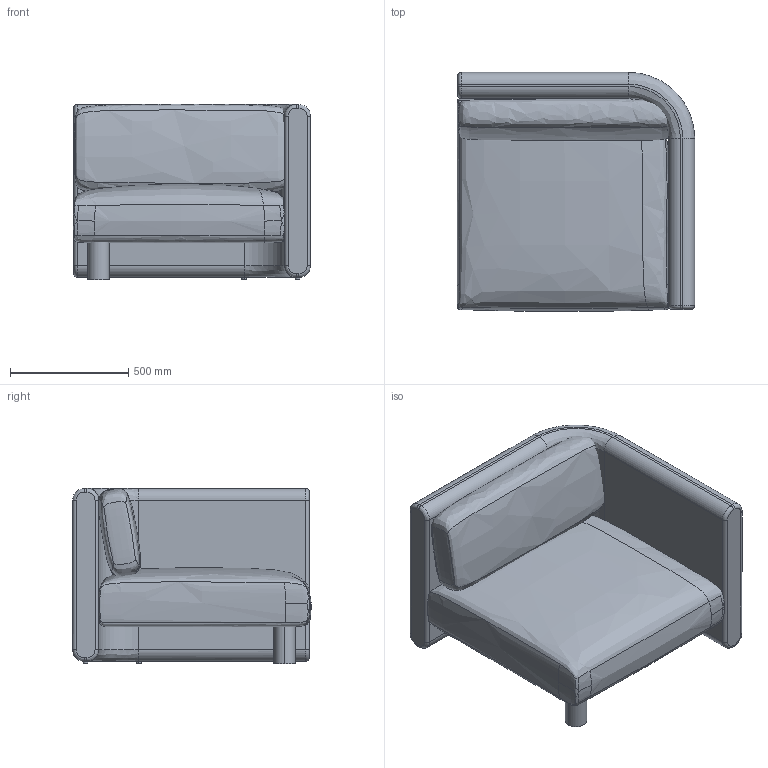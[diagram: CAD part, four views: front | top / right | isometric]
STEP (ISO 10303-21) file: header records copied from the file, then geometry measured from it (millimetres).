
FILE_DESCRIPTION(/* description */ (''),/* implementation_level */ '2;1');
FILE_NAME(/* name */ 'Dase armrest right_3D',/* time_stamp */ '2024-05-13T09:48:11+02:00',/* author */ (''),/* organization */ (''),/* preprocessor_version */ 'ST-DEVELOPER v16.5',/* originating_system */ 'Rhino 7.36',/* authorisation */ '');
FILE_SCHEMA (('CONFIG_CONTROL_DESIGN'));
Length unit declared in the file: millimetre
Products named in the file (1): Document
Bounding box: 1001.43 x 1009.04 x 740.78 mm (x, y, z)
Volume: 361911854.1 mm3; surface area: 6114677.3 mm2
Topology: 8 solids, 8 shells, 91 faces, 195 edges, 120 vertices
Faces by surface type: bspline 45, cylinder 28, plane 18
Entity records: 7660 total; most frequent: CARTESIAN_POINT 6316, ORIENTED_EDGE 390, EDGE_CURVE 195, VERTEX_POINT 120, ADVANCED_FACE 91, FACE_OUTER_BOUND 91, EDGE_LOOP 91, B_SPLINE_CURVE_WITH_KNOTS 89
